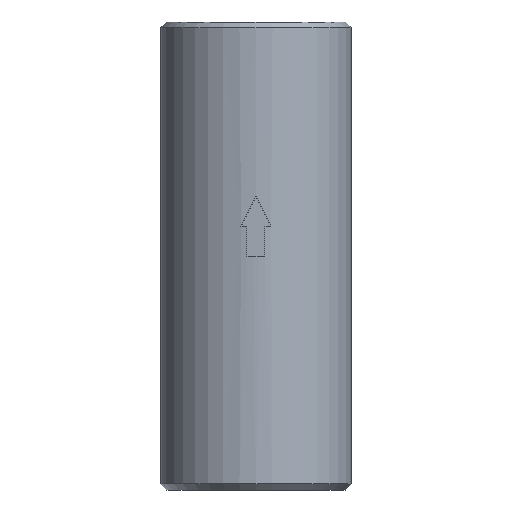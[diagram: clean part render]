
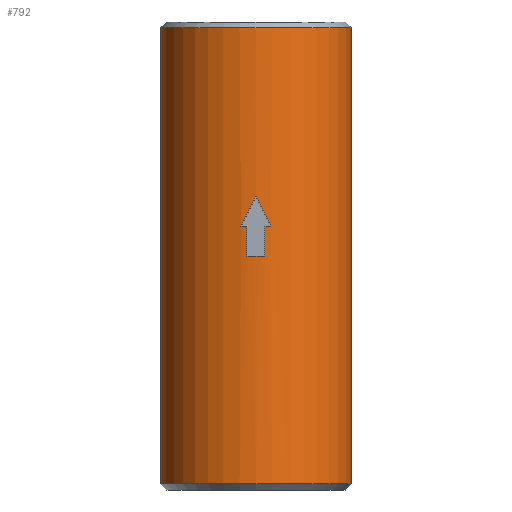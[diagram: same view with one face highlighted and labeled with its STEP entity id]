
A CAD part, front view. The second image highlights one B-rep face of the part: STEP entity #792.
In plain terms, the highlighted cylindrical face has radius 15.875 mm (diameter 31.75 mm), a partial arc.
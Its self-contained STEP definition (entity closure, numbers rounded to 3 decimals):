
#17 = CARTESIAN_POINT ( 'NONE',  ( -2.5, -15.677, 5. ) ) ;
#19 = VERTEX_POINT ( 'NONE', #695 ) ;
#33 = VERTEX_POINT ( 'NONE', #127 ) ;
#43 = CARTESIAN_POINT ( 'NONE',  ( 0., 0., 38. ) ) ;
#44 = ORIENTED_EDGE ( 'NONE', *, *, #279, .F. ) ;
#50 = ORIENTED_EDGE ( 'NONE', *, *, #358, .F. ) ;
#69 = CARTESIAN_POINT ( 'NONE',  ( 0.838, -15.875, 8.325 ) ) ;
#79 = CARTESIAN_POINT ( 'NONE',  ( 0., 0., 0. ) ) ;
#104 = CARTESIAN_POINT ( 'NONE',  ( -15.875, 0., -38. ) ) ;
#114 = VERTEX_POINT ( 'NONE', #559 ) ;
#118 = DIRECTION ( 'NONE',  ( 0., 0., 1. ) ) ;
#122 =( BOUNDED_CURVE ( )  B_SPLINE_CURVE ( 3, ( #865, #560, #69, #880 ),
 .UNSPECIFIED., .F., .F. ) 
 B_SPLINE_CURVE_WITH_KNOTS ( ( 4, 4 ),
 ( 4.554, 4.712 ),
 .UNSPECIFIED. ) 
 CURVE ( )  GEOMETRIC_REPRESENTATION_ITEM ( )  RATIONAL_B_SPLINE_CURVE ( ( 1., 0.998, 0.998, 1. ) ) 
 REPRESENTATION_ITEM ( '' )  );
#127 = CARTESIAN_POINT ( 'NONE',  ( -1.5, -15.804, 0. ) ) ;
#131 = CIRCLE ( 'NONE', #183, 15.875 ) ;
#137 = CIRCLE ( 'NONE', #1005, 15.875 ) ;
#139 = VERTEX_POINT ( 'NONE', #104 ) ;
#145 = DIRECTION ( 'NONE',  ( 1., 0., 0. ) ) ;
#165 = DIRECTION ( 'NONE',  ( 1., 0., 0. ) ) ;
#174 = VECTOR ( 'NONE', #939, 1000. ) ;
#183 = AXIS2_PLACEMENT_3D ( 'NONE', #79, #247, #877 ) ;
#209 = DIRECTION ( 'NONE',  ( -1., 0., 0. ) ) ;
#212 = CARTESIAN_POINT ( 'NONE',  ( 1.5, -15.804, 39. ) ) ;
#217 = LINE ( 'NONE', #692, #568 ) ;
#221 = CARTESIAN_POINT ( 'NONE',  ( -15.875, 0., 39. ) ) ;
#245 = DIRECTION ( 'NONE',  ( 1., 0., 0. ) ) ;
#247 = DIRECTION ( 'NONE',  ( 0., 0., 1. ) ) ;
#264 = EDGE_CURVE ( 'NONE', #114, #952, #385, .T. ) ;
#265 = CARTESIAN_POINT ( 'NONE',  ( 2.5, -15.677, 5. ) ) ;
#278 = DIRECTION ( 'NONE',  ( 0., 0., 1. ) ) ;
#279 = EDGE_CURVE ( 'NONE', #697, #114, #929, .T. ) ;
#280 = AXIS2_PLACEMENT_3D ( 'NONE', #995, #278, #465 ) ;
#282 = VERTEX_POINT ( 'NONE', #621 ) ;
#295 = DIRECTION ( 'NONE',  ( 0., 0., -1. ) ) ;
#299 = CARTESIAN_POINT ( 'NONE',  ( 0., 0., 39. ) ) ;
#304 = FACE_OUTER_BOUND ( 'NONE', #919, .T. ) ;
#315 = AXIS2_PLACEMENT_3D ( 'NONE', #299, #931, #145 ) ;
#317 = CARTESIAN_POINT ( 'NONE',  ( 15.875, 0., -38. ) ) ;
#325 = ORIENTED_EDGE ( 'NONE', *, *, #888, .F. ) ;
#358 = EDGE_CURVE ( 'NONE', #614, #33, #217, .T. ) ;
#381 = CARTESIAN_POINT ( 'NONE',  ( -1.673, -15.809, 6.654 ) ) ;
#385 = CIRCLE ( 'NONE', #280, 15.875 ) ;
#391 = CARTESIAN_POINT ( 'NONE',  ( -2.5, -15.677, 5. ) ) ;
#394 = LINE ( 'NONE', #221, #174 ) ;
#402 = AXIS2_PLACEMENT_3D ( 'NONE', #43, #448, #209 ) ;
#408 = DIRECTION ( 'NONE',  ( 0., 0., 1. ) ) ;
#412 = EDGE_CURVE ( 'NONE', #33, #697, #131, .T. ) ;
#421 = ORIENTED_EDGE ( 'NONE', *, *, #264, .F. ) ;
#433 = CARTESIAN_POINT ( 'NONE',  ( -15.875, 0., 38. ) ) ;
#442 = EDGE_CURVE ( 'NONE', #1034, #614, #1000, .T. ) ;
#448 = DIRECTION ( 'NONE',  ( 0., 0., -1. ) ) ;
#465 = DIRECTION ( 'NONE',  ( 1., 0., 0. ) ) ;
#466 = ORIENTED_EDGE ( 'NONE', *, *, #993, .T. ) ;
#489 = CARTESIAN_POINT ( 'NONE',  ( 0., 0., 5. ) ) ;
#497 = ORIENTED_EDGE ( 'NONE', *, *, #442, .F. ) ;
#515 = CARTESIAN_POINT ( 'NONE',  ( -1.5, -15.804, 5. ) ) ;
#525 =( BOUNDED_CURVE ( )  B_SPLINE_CURVE ( 3, ( #851, #540, #381, #391 ),
 .UNSPECIFIED., .F., .T. ) 
 B_SPLINE_CURVE_WITH_KNOTS ( ( 4, 4 ),
 ( 1.571, 1.729 ),
 .UNSPECIFIED. ) 
 CURVE ( )  GEOMETRIC_REPRESENTATION_ITEM ( )  RATIONAL_B_SPLINE_CURVE ( ( 1., 0.998, 0.998, 1. ) ) 
 REPRESENTATION_ITEM ( '' )  );
#526 = LINE ( 'NONE', #840, #762 ) ;
#530 = CARTESIAN_POINT ( 'NONE',  ( 1.5, -15.804, 0. ) ) ;
#538 = DIRECTION ( 'NONE',  ( 0., 0., 1. ) ) ;
#540 = CARTESIAN_POINT ( 'NONE',  ( -0.838, -15.875, 8.325 ) ) ;
#559 = CARTESIAN_POINT ( 'NONE',  ( 1.5, -15.804, 5. ) ) ;
#560 = CARTESIAN_POINT ( 'NONE',  ( 1.673, -15.809, 6.654 ) ) ;
#568 = VECTOR ( 'NONE', #295, 1000. ) ;
#582 = ORIENTED_EDGE ( 'NONE', *, *, #807, .T. ) ;
#614 = VERTEX_POINT ( 'NONE', #515 ) ;
#621 = CARTESIAN_POINT ( 'NONE',  ( 0., -15.875, 10. ) ) ;
#654 = ORIENTED_EDGE ( 'NONE', *, *, #412, .F. ) ;
#692 = CARTESIAN_POINT ( 'NONE',  ( -1.5, -15.804, 39. ) ) ;
#695 = CARTESIAN_POINT ( 'NONE',  ( 15.875, 0., 38. ) ) ;
#697 = VERTEX_POINT ( 'NONE', #530 ) ;
#698 = VECTOR ( 'NONE', #538, 1000. ) ;
#700 = EDGE_CURVE ( 'NONE', #282, #1034, #525, .T. ) ;
#726 = ORIENTED_EDGE ( 'NONE', *, *, #700, .F. ) ;
#741 = DIRECTION ( 'NONE',  ( 0., 0., 1. ) ) ;
#762 = VECTOR ( 'NONE', #118, 1000. ) ;
#792 = ADVANCED_FACE ( 'NONE', ( #304, #922 ), #863, .T. ) ;
#801 = CIRCLE ( 'NONE', #402, 15.875 ) ;
#808 = EDGE_LOOP ( 'NONE', ( #654, #50, #497, #726, #325, #421, #44 ) ) ;
#807 = EDGE_CURVE ( 'NONE', #925, #19, #526, .T. ) ;
#809 = EDGE_CURVE ( 'NONE', #19, #992, #801, .T. ) ;
#840 = CARTESIAN_POINT ( 'NONE',  ( 15.875, 0., 39. ) ) ;
#848 = ORIENTED_EDGE ( 'NONE', *, *, #895, .F. ) ;
#851 = CARTESIAN_POINT ( 'NONE',  ( 0., -15.875, 10. ) ) ;
#863 = CYLINDRICAL_SURFACE ( 'NONE', #315, 15.875 ) ;
#865 = CARTESIAN_POINT ( 'NONE',  ( 2.5, -15.677, 5. ) ) ;
#877 = DIRECTION ( 'NONE',  ( 1., 0., 0. ) ) ;
#880 = CARTESIAN_POINT ( 'NONE',  ( 0., -15.875, 10. ) ) ;
#888 = EDGE_CURVE ( 'NONE', #952, #282, #122, .T. ) ;
#895 = EDGE_CURVE ( 'NONE', #139, #992, #394, .T. ) ;
#919 = EDGE_LOOP ( 'NONE', ( #848, #466, #582, #956 ) ) ;
#922 = FACE_BOUND ( 'NONE', #808, .T. ) ;
#925 = VERTEX_POINT ( 'NONE', #317 ) ;
#929 = LINE ( 'NONE', #212, #698 ) ;
#931 = DIRECTION ( 'NONE',  ( 0., 0., 1. ) ) ;
#939 = DIRECTION ( 'NONE',  ( 0., 0., 1. ) ) ;
#952 = VERTEX_POINT ( 'NONE', #265 ) ;
#956 = ORIENTED_EDGE ( 'NONE', *, *, #809, .T. ) ;
#969 = CARTESIAN_POINT ( 'NONE',  ( 0., 0., -38. ) ) ;
#992 = VERTEX_POINT ( 'NONE', #433 ) ;
#993 = EDGE_CURVE ( 'NONE', #139, #925, #137, .T. ) ;
#995 = CARTESIAN_POINT ( 'NONE',  ( 0., 0., 5. ) ) ;
#1000 = CIRCLE ( 'NONE', #1035, 15.875 ) ;
#1005 = AXIS2_PLACEMENT_3D ( 'NONE', #969, #741, #165 ) ;
#1034 = VERTEX_POINT ( 'NONE', #17 ) ;
#1035 = AXIS2_PLACEMENT_3D ( 'NONE', #489, #408, #245 ) ;
